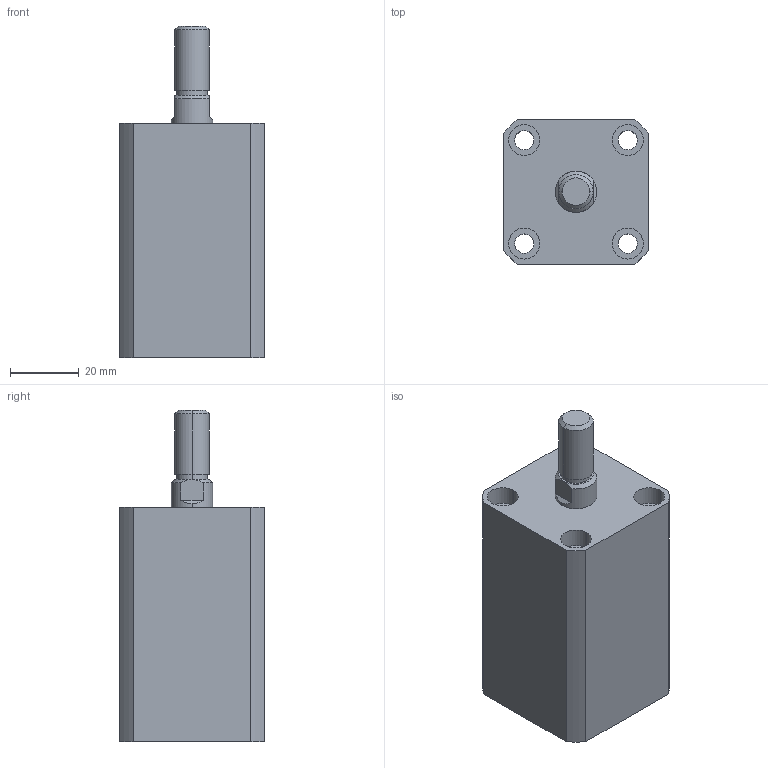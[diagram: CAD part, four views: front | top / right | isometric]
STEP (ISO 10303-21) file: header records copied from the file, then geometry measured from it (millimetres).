
FILE_DESCRIPTION (( 'STEP AP203' ), '1' );
FILE_NAME ('HTB-SDMB20-25W.STEP', '2019-10-08T11:55:15', ( '微软用户' ), ( '微软中国' ), 'SwSTEP 2.0', 'SolidWorks 2012', '' );
FILE_SCHEMA (( 'CONFIG_CONTROL_DESIGN' ));
Length unit declared in the file: millimetre
Products named in the file (3): HTB-SDMB20-25掛极; HTB-SDMB20-25W活塞杆; HTB-SDMB20-25W
Assembly tree (2 placements, depth 2):
  HTB-SDMB20-25W
    HTB-SDMB20-25掛极
    HTB-SDMB20-25W活塞杆
Bounding box: 42 x 42 x 96 mm (x, y, z)
Volume: 106567 mm3; surface area: 27324.1 mm2
Topology: 2 solids, 2 shells, 140 faces, 332 edges, 218 vertices
Faces by surface type: plane 66, cylinder 48, bspline 16, torus 6, cone 4
Entity records: 5129 total; most frequent: CARTESIAN_POINT 1587, ORIENTED_EDGE 664, DIRECTION 662, EDGE_CURVE 332, AXIS2_PLACEMENT_3D 241, VERTEX_POINT 218, VECTOR 180, LINE 180
